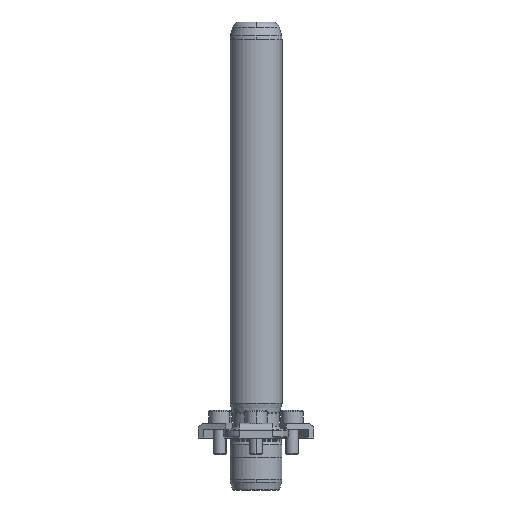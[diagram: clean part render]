
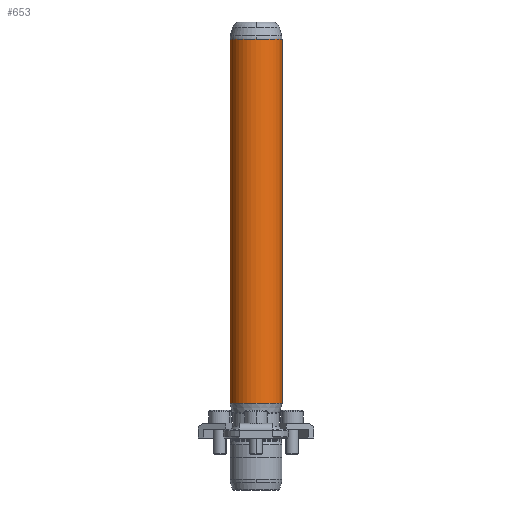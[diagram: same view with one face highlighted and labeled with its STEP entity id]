
A CAD part, front view. The second image highlights one B-rep face of the part: STEP entity #653.
In plain terms, the highlighted cylindrical face has radius 10 mm (diameter 20 mm), a partial arc.
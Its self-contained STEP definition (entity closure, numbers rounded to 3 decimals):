
#566=CARTESIAN_POINT('',(0.0,-10.,153.342));
#567=VERTEX_POINT('',#566);
#594=CARTESIAN_POINT('',(-10.0,0.,153.342));
#595=VERTEX_POINT('',#594);
#603=CARTESIAN_POINT('',(0.0,0.,153.342));
#604=DIRECTION('',(0.0,0.0,1.0));
#605=DIRECTION('',(1.0,0.0,0.0));
#606=AXIS2_PLACEMENT_3D('',#603,#604,#605);
#607=CIRCLE('',#606,10.);
#608=EDGE_CURVE('',#595,#567,#607,.T.);
#613=CARTESIAN_POINT('',(0.0,0.,83.321));
#614=DIRECTION('',(0.0,0.,1.0));
#615=DIRECTION('',(1.0,0.0,0.0));
#616=AXIS2_PLACEMENT_3D('',#613,#614,#615);
#617=CYLINDRICAL_SURFACE('',#616,10.0);
#618=CARTESIAN_POINT('',(10.,0.,153.342));
#619=VERTEX_POINT('',#618);
#620=CARTESIAN_POINT('',(10.0,0.,13.3));
#621=VERTEX_POINT('',#620);
#622=CARTESIAN_POINT('',(10.,0.,153.342));
#623=DIRECTION('',(0.0,0.0,-1.0));
#624=VECTOR('',#623,140.042);
#625=LINE('',#622,#624);
#626=EDGE_CURVE('',#619,#621,#625,.T.);
#627=ORIENTED_EDGE('',*,*,#626,.F.);
#628=CARTESIAN_POINT('',(0.0,0.,153.342));
#629=DIRECTION('',(0.0,0.0,1.0));
#630=DIRECTION('',(1.0,0.0,0.0));
#631=AXIS2_PLACEMENT_3D('',#628,#629,#630);
#632=CIRCLE('',#631,10.);
#633=EDGE_CURVE('',#567,#619,#632,.T.);
#634=ORIENTED_EDGE('',*,*,#633,.F.);
#635=ORIENTED_EDGE('',*,*,#608,.F.);
#636=CARTESIAN_POINT('',(-10.,0.,13.3));
#637=VERTEX_POINT('',#636);
#638=CARTESIAN_POINT('',(-10.0,0.,153.342));
#639=DIRECTION('',(0.0,0.0,-1.0));
#640=VECTOR('',#639,140.042);
#641=LINE('',#638,#640);
#642=EDGE_CURVE('',#595,#637,#641,.T.);
#643=ORIENTED_EDGE('',*,*,#642,.T.);
#644=CARTESIAN_POINT('',(0.0,0.,13.3));
#645=DIRECTION('',(0.0,0.0,1.0));
#646=DIRECTION('',(1.0,0.0,0.0));
#647=AXIS2_PLACEMENT_3D('',#644,#645,#646);
#648=CIRCLE('',#647,10.0);
#649=EDGE_CURVE('',#637,#621,#648,.T.);
#650=ORIENTED_EDGE('',*,*,#649,.T.);
#651=EDGE_LOOP('',(#627,#634,#635,#643,#650));
#652=FACE_OUTER_BOUND('',#651,.T.);
#653=ADVANCED_FACE('',(#652),#617,.T.);
